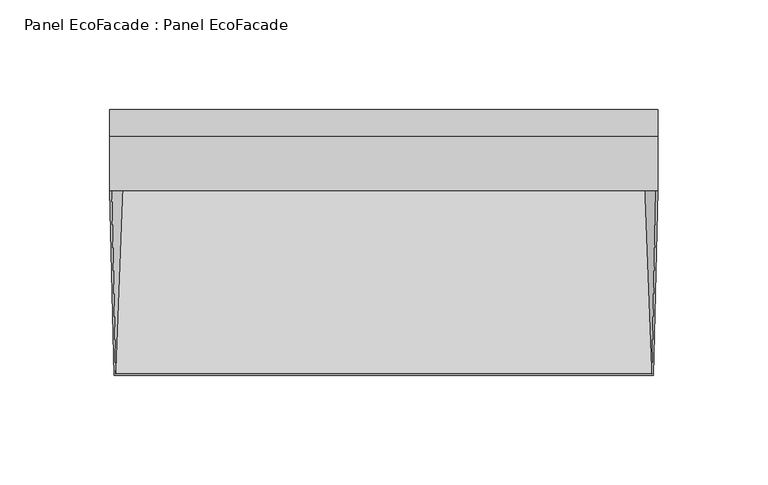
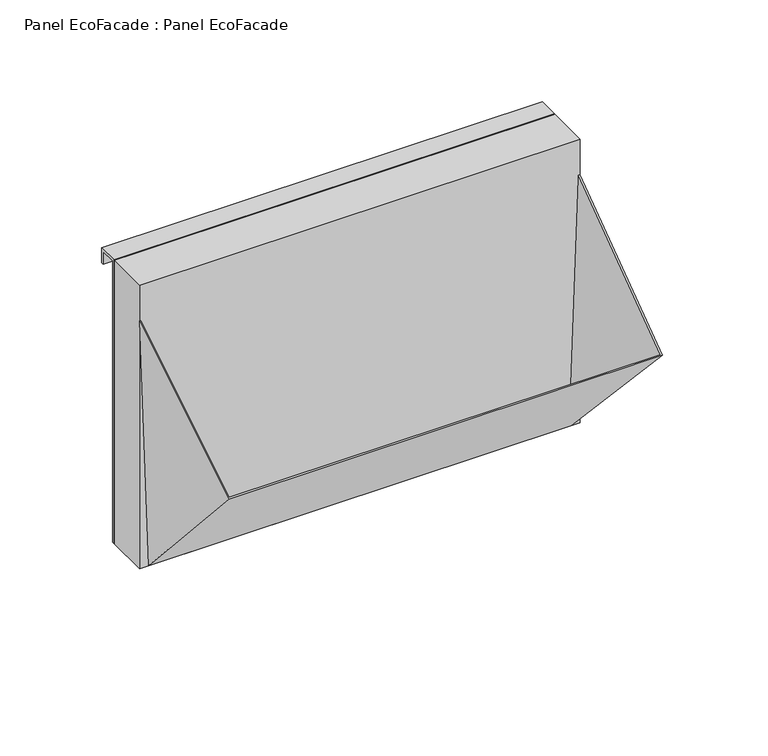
"""IFC4 building model written with IfcOpenShell, lengths in millimetres: plate geometry, Panel EcoFacade : Panel EcoFacade."""

from ifc_helpers import new_model, si_unit, frame, origin, origin_with_axes, place, context, project, spatial, polyline, outline, extrude, faceted_brep, source, transform, mapped, element, save


def panel_ecofacade_panel_ecofacade_d5916462(model_context):
    return source(origin(), model_context, "Body", "SolidModel", [
        faceted_brep([(-124.180785, 0.0, 148.5882353), (-119.0333837, 0.0, 1.185948), (119.0333837, 0.0, 1.185948), (124.180785, 0.0, 148.5882353), (124.9812727, 0.0, 148.5882353), (119.7924572, 0.0, 0.0), (-119.7924572, 0.0, 0.0), (-124.9812727, 0.0, 148.5882353), (-123.0102218, -84.2, 92.1447224), (-122.225466, -83.5279628, 92.5952229), (123.0102218, -84.2, 92.1447224), (122.225466, -83.5279628, 92.5952229)], [[[0, 1, 2, 3, 4, 5, 6, 7]], [[6, 8, 7]], [[1, 0, 9]], [[0, 7, 8, 10, 4, 3, 11, 9]], [[5, 10, 8, 6]], [[1, 9, 11, 2]], [[4, 10, 5]], [[3, 2, 11]]]),
        extrude(outline(polyline([(26.5, 0.0), (25.0, 0.0), (25.0, 170.0), (37.0, 170.0), (37.0, 161.0), (35.5, 161.0), (35.5, 168.5), (26.5, 168.5), (26.5, 0.0)])), frame((-125.0000001, 0.0, 0.0), z_axis=(1.0, 0.0, 0.0), x_axis=(0.0, 1.0, 0.0)), (0.0, 0.0, 1.0), 250.0),
        extrude(outline(polyline([(125.0, 25.0), (125.0, 0.0), (-125.0, 0.0), (-125.0, 25.0), (125.0, 25.0)])), origin_with_axes(), (0.0, 0.0, 1.0), 170.0),
    ])


if __name__ == "__main__":
    model = new_model("IFC4")
    model_context = context("Model", 3, world=origin())
    ifc_project = project(units=[si_unit("LENGTHUNIT", "METRE", prefix="MILLI")], contexts=[model_context])
    site = spatial("IfcSite", under=ifc_project)
    building = spatial("IfcBuilding", under=site)
    placement = place(None, origin())
    panel_ecofacade_panel_ecofacade_shape = panel_ecofacade_panel_ecofacade_d5916462(model_context)
    element("IfcPlate", 1, ObjectType="Panel EcoFacade : Panel EcoFacade", at=placement, inside=building, context=model_context, shape_type="MappedRepresentation", body=[
        mapped(panel_ecofacade_panel_ecofacade_shape, transform((0.0, 0.0, 0.0), x_axis=(1.0, 0.0, 0.0), y_axis=(0.0, 1.0, 0.0), z_axis=(0.0, 0.0, 1.0))),
    ])
    save(model, "model.ifc")
